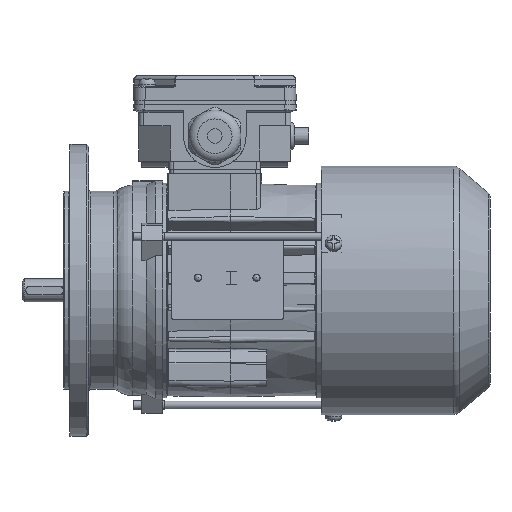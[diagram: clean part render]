
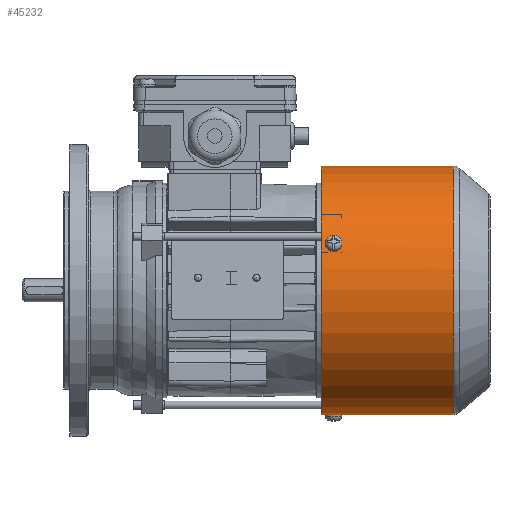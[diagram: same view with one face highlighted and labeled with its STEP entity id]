
A CAD part, front view. The second image highlights one B-rep face of the part: STEP entity #45232.
In plain terms, the highlighted cylindrical face has radius 59.6 mm (diameter 119.2 mm), a full revolution.
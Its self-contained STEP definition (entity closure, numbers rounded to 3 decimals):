
#587=B_SPLINE_CURVE_WITH_KNOTS('',3,(#67963,#67964,#67965,#67966,#67967,
#67968,#67969),.UNSPECIFIED.,.F.,.F.,(4,1,1,1,4),(0.,0.002,
0.004,0.006,0.008),
 .UNSPECIFIED.);
#589=B_SPLINE_CURVE_WITH_KNOTS('',3,(#67987,#67988,#67989,#67990,#67991,
#67992,#67993),.UNSPECIFIED.,.F.,.F.,(4,1,1,1,4),(0.,0.002,
0.004,0.006,0.008),
 .UNSPECIFIED.);
#591=B_SPLINE_CURVE_WITH_KNOTS('',3,(#68015,#68016,#68017,#68018,#68019,
#68020,#68021),.UNSPECIFIED.,.F.,.F.,(4,1,1,1,4),(0.,0.002,
0.004,0.006,0.008),
 .UNSPECIFIED.);
#593=B_SPLINE_CURVE_WITH_KNOTS('',3,(#68039,#68040,#68041,#68042,#68043,
#68044,#68045),.UNSPECIFIED.,.F.,.F.,(4,1,1,1,4),(0.,0.002,
0.004,0.006,0.008),
 .UNSPECIFIED.);
#594=B_SPLINE_CURVE_WITH_KNOTS('',3,(#68050,#68051,#68052,#68053,#68054,
#68055,#68056),.UNSPECIFIED.,.F.,.F.,(4,1,1,1,4),(0.,
0.002,0.004,0.006,0.007),
 .UNSPECIFIED.);
#595=B_SPLINE_CURVE_WITH_KNOTS('',3,(#68059,#68060,#68061,#68062,#68063,
#68064,#68065),.UNSPECIFIED.,.F.,.F.,(4,1,1,1,4),(0.,
0.002,0.004,0.006,0.007),
 .UNSPECIFIED.);
#7154=CYLINDRICAL_SURFACE('',#48226,59.6);
#14512=ORIENTED_EDGE('',*,*,#20659,.T.);
#14513=ORIENTED_EDGE('',*,*,#20656,.T.);
#14514=ORIENTED_EDGE('',*,*,#20664,.T.);
#14515=ORIENTED_EDGE('',*,*,#20662,.T.);
#14516=ORIENTED_EDGE('',*,*,#20678,.F.);
#14517=ORIENTED_EDGE('',*,*,#20679,.F.);
#14518=ORIENTED_EDGE('',*,*,#20672,.T.);
#14519=ORIENTED_EDGE('',*,*,#20669,.T.);
#14520=ORIENTED_EDGE('',*,*,#20677,.T.);
#14521=ORIENTED_EDGE('',*,*,#20675,.T.);
#14522=ORIENTED_EDGE('',*,*,#19053,.F.);
#14523=ORIENTED_EDGE('',*,*,#20665,.T.);
#19053=EDGE_CURVE('',#23205,#23205,#25732,.T.);
#20656=EDGE_CURVE('',#24300,#24303,#587,.T.);
#20659=EDGE_CURVE('',#24304,#24300,#26287,.F.);
#20662=EDGE_CURVE('',#24306,#24304,#589,.T.);
#20664=EDGE_CURVE('',#24303,#24306,#26289,.F.);
#20665=EDGE_CURVE('',#24308,#24308,#26290,.F.);
#20669=EDGE_CURVE('',#24309,#24312,#591,.T.);
#20672=EDGE_CURVE('',#24313,#24309,#26292,.F.);
#20675=EDGE_CURVE('',#24315,#24313,#593,.T.);
#20677=EDGE_CURVE('',#24312,#24315,#26294,.F.);
#20678=EDGE_CURVE('',#24317,#24318,#594,.T.);
#20679=EDGE_CURVE('',#24318,#24317,#595,.T.);
#23205=VERTEX_POINT('',#64316);
#24300=VERTEX_POINT('',#67951);
#24303=VERTEX_POINT('',#67962);
#24304=VERTEX_POINT('',#67972);
#24306=VERTEX_POINT('',#67978);
#24308=VERTEX_POINT('',#68000);
#24309=VERTEX_POINT('',#68003);
#24312=VERTEX_POINT('',#68014);
#24313=VERTEX_POINT('',#68024);
#24315=VERTEX_POINT('',#68030);
#24317=VERTEX_POINT('',#68057);
#24318=VERTEX_POINT('',#68058);
#25732=CIRCLE('',#47041,59.6);
#26287=CIRCLE('',#48210,59.6);
#26289=CIRCLE('',#48215,59.6);
#26290=CIRCLE('',#48217,59.6);
#26292=CIRCLE('',#48221,59.6);
#26294=CIRCLE('',#48225,59.6);
#28219=EDGE_LOOP('',(#14512,#14513,#14514,#14515));
#28220=EDGE_LOOP('',(#14516,#14517));
#28221=EDGE_LOOP('',(#14518,#14519,#14520,#14521));
#28222=EDGE_LOOP('',(#14522));
#28223=EDGE_LOOP('',(#14523));
#30434=FACE_BOUND('',#28219,.T.);
#30435=FACE_BOUND('',#28220,.T.);
#30436=FACE_BOUND('',#28221,.T.);
#30437=FACE_BOUND('',#28222,.T.);
#30438=FACE_BOUND('',#28223,.T.);
#45232=ADVANCED_FACE('',(#30434,#30435,#30436,#30437,#30438),#7154,.T.);
#47041=AXIS2_PLACEMENT_3D('',#64315,#52530,#52531);
#48210=AXIS2_PLACEMENT_3D('',#67975,#55809,#55810);
#48215=AXIS2_PLACEMENT_3D('',#67997,#55820,#55821);
#48217=AXIS2_PLACEMENT_3D('',#67999,#55824,#55825);
#48221=AXIS2_PLACEMENT_3D('',#68027,#55835,#55836);
#48225=AXIS2_PLACEMENT_3D('',#68048,#55844,#55845);
#48226=AXIS2_PLACEMENT_3D('',#68049,#55846,#55847);
#52530=DIRECTION('',(-1.,0.,0.));
#52531=DIRECTION('',(0.,0.,1.));
#55809=DIRECTION('',(-1.,0.,0.));
#55810=DIRECTION('',(0.,0.866,-0.5));
#55820=DIRECTION('',(1.,0.,0.));
#55821=DIRECTION('',(0.,-0.866,0.5));
#55824=DIRECTION('',(1.,0.,0.));
#55825=DIRECTION('',(0.,0.,-1.));
#55835=DIRECTION('',(-1.,0.,0.));
#55836=DIRECTION('',(0.,0.,1.));
#55844=DIRECTION('',(1.,0.,0.));
#55845=DIRECTION('',(0.,0.,-1.));
#55846=DIRECTION('',(-1.,0.,0.));
#55847=DIRECTION('',(0.,0.,1.));
#64315=CARTESIAN_POINT('',(43.5,0.,0.));
#64316=CARTESIAN_POINT('',(43.5,0.,59.6));
#67951=CARTESIAN_POINT('',(52.,46.437,37.36));
#67962=CARTESIAN_POINT('',(47.,46.437,37.36));
#67963=CARTESIAN_POINT('',(52.,46.437,37.36));
#67964=CARTESIAN_POINT('',(52.,46.023,37.874));
#67965=CARTESIAN_POINT('',(51.458,45.191,38.867));
#67966=CARTESIAN_POINT('',(49.502,44.648,39.479));
#67967=CARTESIAN_POINT('',(47.542,45.19,38.869));
#67968=CARTESIAN_POINT('',(47.,46.023,37.874));
#67969=CARTESIAN_POINT('',(47.,46.437,37.36));
#67972=CARTESIAN_POINT('',(52.,47.484,36.02));
#67975=CARTESIAN_POINT('',(52.,0.,0.));
#67978=CARTESIAN_POINT('',(47.,47.484,36.02));
#67987=CARTESIAN_POINT('',(47.,47.484,36.02));
#67988=CARTESIAN_POINT('',(47.,47.883,35.493));
#67989=CARTESIAN_POINT('',(47.542,48.645,34.446));
#67990=CARTESIAN_POINT('',(49.498,49.108,33.771));
#67991=CARTESIAN_POINT('',(51.458,48.646,34.444));
#67992=CARTESIAN_POINT('',(52.,47.883,35.493));
#67993=CARTESIAN_POINT('',(52.,47.484,36.02));
#67997=CARTESIAN_POINT('',(47.,0.,0.));
#67999=CARTESIAN_POINT('',(106.809,0.,0.));
#68000=CARTESIAN_POINT('',(106.809,0.,-59.6));
#68003=CARTESIAN_POINT('',(52.,-55.573,21.536));
#68014=CARTESIAN_POINT('',(47.,-55.573,21.536));
#68015=CARTESIAN_POINT('',(52.,-55.573,21.536));
#68016=CARTESIAN_POINT('',(52.,-55.812,20.92));
#68017=CARTESIAN_POINT('',(51.458,-56.255,19.703));
#68018=CARTESIAN_POINT('',(49.502,-56.514,18.927));
#68019=CARTESIAN_POINT('',(47.542,-56.256,19.701));
#68020=CARTESIAN_POINT('',(47.,-55.812,20.92));
#68021=CARTESIAN_POINT('',(47.,-55.573,21.536));
#68024=CARTESIAN_POINT('',(52.,-54.936,23.112));
#68027=CARTESIAN_POINT('',(52.,0.,0.));
#68030=CARTESIAN_POINT('',(47.,-54.936,23.112));
#68039=CARTESIAN_POINT('',(47.,-54.936,23.112));
#68040=CARTESIAN_POINT('',(47.,-54.68,23.721));
#68041=CARTESIAN_POINT('',(47.542,-54.154,24.905));
#68042=CARTESIAN_POINT('',(49.498,-53.8,25.643));
#68043=CARTESIAN_POINT('',(51.458,-54.153,24.907));
#68044=CARTESIAN_POINT('',(52.,-54.68,23.721));
#68045=CARTESIAN_POINT('',(52.,-54.936,23.112));
#68048=CARTESIAN_POINT('',(47.,0.,0.));
#68049=CARTESIAN_POINT('',(-16.5,0.,0.));
#68050=CARTESIAN_POINT('',(52.,8.295,-59.02));
#68051=CARTESIAN_POINT('',(51.937,7.681,-59.106));
#68052=CARTESIAN_POINT('',(51.356,6.499,-59.249));
#68053=CARTESIAN_POINT('',(49.502,5.777,-59.318));
#68054=CARTESIAN_POINT('',(47.649,6.493,-59.25));
#68055=CARTESIAN_POINT('',(47.063,7.681,-59.106));
#68056=CARTESIAN_POINT('',(47.,8.295,-59.02));
#68057=CARTESIAN_POINT('',(52.,8.295,-59.02));
#68058=CARTESIAN_POINT('',(47.,8.295,-59.02));
#68059=CARTESIAN_POINT('',(47.,8.295,-59.02));
#68060=CARTESIAN_POINT('',(47.063,8.908,-58.934));
#68061=CARTESIAN_POINT('',(47.644,10.084,-58.746));
#68062=CARTESIAN_POINT('',(49.498,10.797,-58.613));
#68063=CARTESIAN_POINT('',(51.351,10.09,-58.745));
#68064=CARTESIAN_POINT('',(51.937,8.908,-58.934));
#68065=CARTESIAN_POINT('',(52.,8.295,-59.02));
